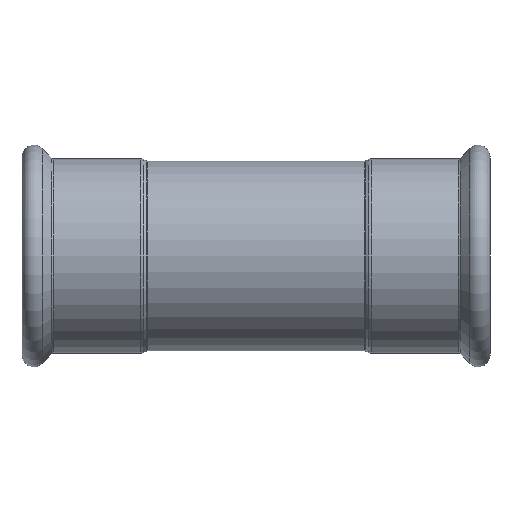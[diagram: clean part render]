
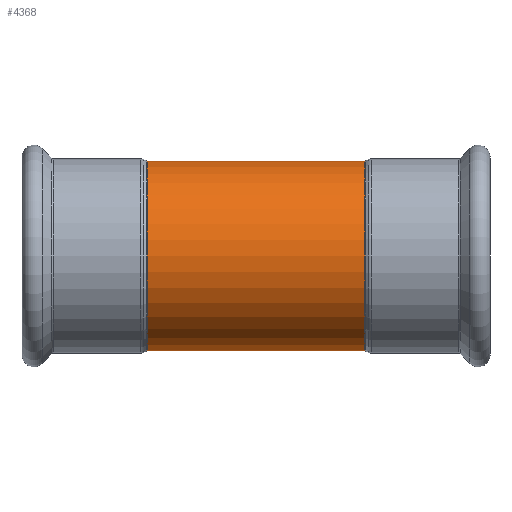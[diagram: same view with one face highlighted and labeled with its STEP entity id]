
A CAD part, front view. The second image highlights one B-rep face of the part: STEP entity #4368.
In plain terms, the highlighted cylindrical face has radius 28 mm (diameter 56 mm), a partial arc.
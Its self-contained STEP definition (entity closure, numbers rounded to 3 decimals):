
#38 = CARTESIAN_POINT ( 'NONE',  ( 32.06, 0., 0. ) ) ;
#77 = CYLINDRICAL_SURFACE ( 'NONE', #2074, 28. ) ;
#112 = EDGE_CURVE ( 'NONE', #4311, #1005, #3180, .T. ) ;
#264 = CARTESIAN_POINT ( 'NONE',  ( 27.146, 0., 28. ) ) ;
#388 = DIRECTION ( 'NONE',  ( -1., 0., 0. ) ) ;
#407 = DIRECTION ( 'NONE',  ( 0., 0., 1. ) ) ;
#423 = CARTESIAN_POINT ( 'NONE',  ( -32.06, 0., 28. ) ) ;
#450 = ORIENTED_EDGE ( 'NONE', *, *, #3688, .T. ) ;
#718 = DIRECTION ( 'NONE',  ( -1., 0., 0. ) ) ;
#995 = CARTESIAN_POINT ( 'NONE',  ( 32.06, 0., -28. ) ) ;
#1005 = VERTEX_POINT ( 'NONE', #1578 ) ;
#1194 = AXIS2_PLACEMENT_3D ( 'NONE', #4104, #4111, #3044 ) ;
#1479 = ORIENTED_EDGE ( 'NONE', *, *, #112, .F. ) ;
#1578 = CARTESIAN_POINT ( 'NONE',  ( -32.06, 0., -28. ) ) ;
#2025 = DIRECTION ( 'NONE',  ( -1., 0., 0. ) ) ;
#2074 = AXIS2_PLACEMENT_3D ( 'NONE', #2158, #718, #407 ) ;
#2092 = ORIENTED_EDGE ( 'NONE', *, *, #3517, .T. ) ;
#2096 = LINE ( 'NONE', #264, #3784 ) ;
#2108 = AXIS2_PLACEMENT_3D ( 'NONE', #38, #388, #4130 ) ;
#2158 = CARTESIAN_POINT ( 'NONE',  ( 27.146, 0., 0. ) ) ;
#2232 = CARTESIAN_POINT ( 'NONE',  ( 32.06, 0., 28. ) ) ;
#2668 = CARTESIAN_POINT ( 'NONE',  ( 27.146, 0., -28. ) ) ;
#2971 = VECTOR ( 'NONE', #3680, 1000. ) ;
#2980 = VERTEX_POINT ( 'NONE', #2232 ) ;
#3044 = DIRECTION ( 'NONE',  ( 0., 0., 1. ) ) ;
#3180 = LINE ( 'NONE', #2668, #2971 ) ;
#3511 = CIRCLE ( 'NONE', #1194, 28. ) ;
#3517 = EDGE_CURVE ( 'NONE', #2980, #4441, #2096, .T. ) ;
#3649 = EDGE_CURVE ( 'NONE', #1005, #4441, #3511, .T. ) ;
#3680 = DIRECTION ( 'NONE',  ( -1., 0., 0. ) ) ;
#3688 = EDGE_CURVE ( 'NONE', #4311, #2980, #3944, .T. ) ;
#3698 = ORIENTED_EDGE ( 'NONE', *, *, #3649, .F. ) ;
#3784 = VECTOR ( 'NONE', #2025, 1000. ) ;
#3828 = FACE_OUTER_BOUND ( 'NONE', #4208, .T. ) ;
#3944 = CIRCLE ( 'NONE', #2108, 28. ) ;
#4104 = CARTESIAN_POINT ( 'NONE',  ( -32.06, 0., 0. ) ) ;
#4111 = DIRECTION ( 'NONE',  ( -1., 0., 0. ) ) ;
#4130 = DIRECTION ( 'NONE',  ( 0., 0., 1. ) ) ;
#4208 = EDGE_LOOP ( 'NONE', ( #1479, #450, #2092, #3698 ) ) ;
#4311 = VERTEX_POINT ( 'NONE', #995 ) ;
#4368 = ADVANCED_FACE ( 'NONE', ( #3828 ), #77, .T. ) ;
#4441 = VERTEX_POINT ( 'NONE', #423 ) ;
